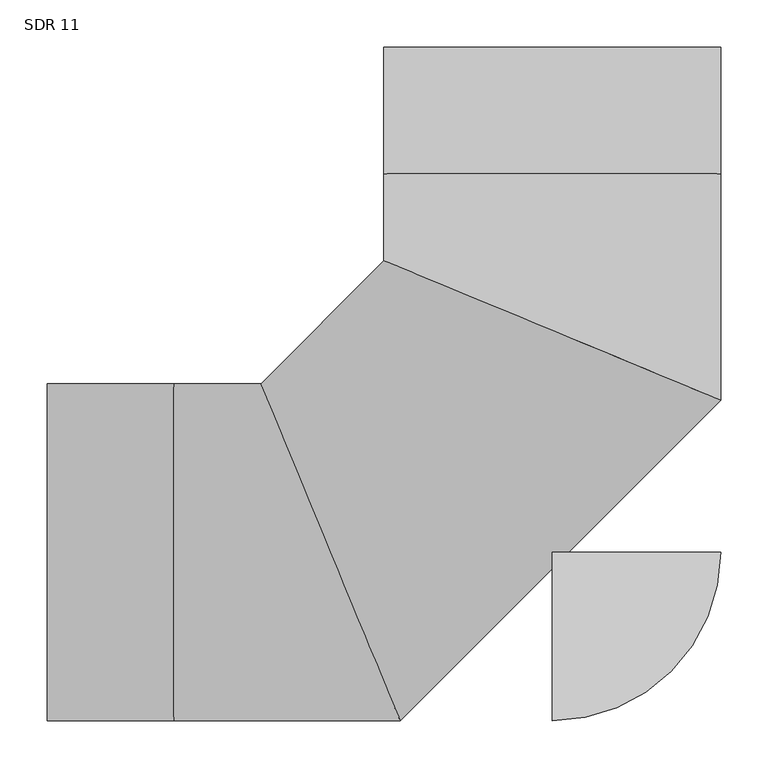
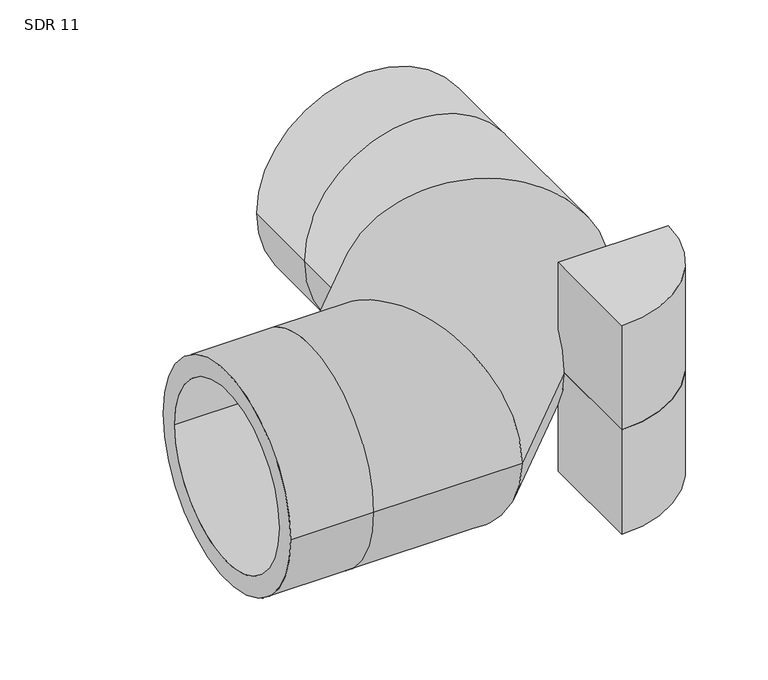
"""IFC4 building model written with IfcOpenShell, lengths in millimetres: pipe fitting geometry, Aquatherm - Elbow Blue BW Segmented : SDR 11."""

from ifc_helpers import new_model, si_unit, point, frame, origin, origin_with_axes, origin_2d, place, context, project, spatial, polyline, circle_curve, ellipse_curve, trimmed, segment, composite_curve, outline, extrude, source, transform, mapped, element, save
from ifc_brep_helpers import plane_surface, cylinder_surface, revolved_surface, advanced_brep


def sdr_11_2044b802(model_context):
    return source(origin(), model_context, "Body", "SolidModel", [
        extrude(outline(composite_curve([segment(polyline([(0.0, -177.8), (0.0, 0.0), (177.8, 0.0)]), True, "CONTINUOUS"), segment(trimmed(circle_curve(origin_2d(), 177.8), [point((177.8, 0.0))], [point((0.0, -177.8))], False, "CARTESIAN"), True, "CONTINUOUS")], self_intersect=False)), frame((0.0, 0.0, -177.8), z_axis=(0.0, 0.0, 1.0), x_axis=(1.0, 0.0, 0.0)), (0.0, 0.0, 1.0), 177.8),
        extrude(outline(composite_curve([segment(trimmed(circle_curve(origin_2d(), 177.8), [point((177.8, 0.0))], [point((0.0, -177.8))], False, "CARTESIAN"), True, "CONTINUOUS"), segment(polyline([(0.0, -177.8), (0.0, 0.0), (177.8, 0.0)]), True, "CONTINUOUS")], self_intersect=False)), origin_with_axes(), (0.0, 0.0, 1.0), 177.8),
        advanced_brep(
        [(-533.4, -177.8, 0.0), (-533.4, 177.8, 0.0), (-533.4, -145.4727273, 0.0), (-533.4, 145.4727273, 0.0), (177.8, 533.4, 0.0), (-177.8, 533.4, 0.0), (145.4727273, 533.4, 0.0), (-145.4727273, 533.4, 0.0), (-400.05, -177.8, 0.0), (-400.05, 177.8, 0.0), (-400.05, -145.4727273, 0.0), (-400.05, 145.4727273, 0.0), (-160.696693, -177.8, 0.0), (-307.9910358, 177.8, 0.0), (-174.0870878, -145.4727273, 0.0), (-294.600641, 145.4727273, 0.0), (177.8, 160.696693, 0.0), (-177.8, 307.9910358, 0.0), (145.4727273, 174.0870878, 0.0), (-145.4727273, 294.600641, 0.0), (-177.8, 400.05, 0.0), (177.8, 400.05, 0.0), (-145.4727273, 400.05, 0.0), (145.4727273, 400.05, 0.0)],
        [
            (0, 1, circle_curve(frame((-533.4, 0.0, 0.0), z_axis=(-1.0, 0.0, 0.0), x_axis=(0.0, 1.0, 0.0)), 177.8)),
            (1, 0, circle_curve(frame((-533.4, 0.0, 0.0), z_axis=(-1.0, 0.0, 0.0), x_axis=(0.0, 1.0, 0.0)), 177.8)),
            (2, 3, circle_curve(frame((-533.4, 0.0, 0.0), z_axis=(1.0, 0.0, 0.0), x_axis=(0.0, 1.0, 0.0)), 145.4727273)),
            (3, 2, circle_curve(frame((-533.4, 0.0, 0.0), z_axis=(1.0, 0.0, 0.0), x_axis=(0.0, 1.0, 0.0)), 145.4727273)),
            (4, 5, circle_curve(frame((0.0, 533.4, 0.0), z_axis=(0.0, 1.0, 0.0), x_axis=(-1.0, 0.0, 0.0)), 177.8)),
            (5, 4, circle_curve(frame((0.0, 533.4, 0.0), z_axis=(0.0, 1.0, 0.0), x_axis=(-1.0, 0.0, 0.0)), 177.8)),
            (6, 7, circle_curve(frame((0.0, 533.4, 0.0), z_axis=(0.0, -1.0, 0.0), x_axis=(-1.0, 0.0, 0.0)), 145.4727273)),
            (7, 6, circle_curve(frame((0.0, 533.4, 0.0), z_axis=(0.0, -1.0, 0.0), x_axis=(-1.0, 0.0, 0.0)), 145.4727273)),
            (0, 8),
            (8, 9, circle_curve(frame((-400.05, 0.0, 0.0), z_axis=(-1.0, 0.0, 0.0), x_axis=(0.0, 1.0, 0.0)), 177.8)),
            (9, 1),
            (9, 8, circle_curve(frame((-400.05, 0.0, 0.0), z_axis=(-1.0, 0.0, 0.0), x_axis=(0.0, 1.0, 0.0)), 177.8)),
            (2, 10),
            (10, 11, circle_curve(frame((-400.05, 0.0, 0.0), z_axis=(1.0, 0.0, 0.0), x_axis=(0.0, 1.0, 0.0)), 145.4727273)),
            (11, 3),
            (11, 10, circle_curve(frame((-400.05, 0.0, 0.0), z_axis=(1.0, 0.0, 0.0), x_axis=(0.0, 1.0, 0.0)), 145.4727273)),
            (8, 12),
            (12, 13, ellipse_curve(frame((-234.3438644, 0.0, 0.0), z_axis=(-0.9238795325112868, -0.38268343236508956, 0.0), x_axis=(-0.3826834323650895, 0.9238795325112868, 0.0)), 192.4493332, 177.8)),
            (13, 9),
            (13, 12, ellipse_curve(frame((-234.3438644, 0.0, 0.0), z_axis=(-0.9238795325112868, -0.38268343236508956, 0.0), x_axis=(-0.3826834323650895, 0.9238795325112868, 0.0)), 192.4493332, 177.8)),
            (10, 14),
            (14, 15, ellipse_curve(frame((-234.3438644, 0.0, 0.0), z_axis=(0.9238795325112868, 0.38268343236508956, 0.0), x_axis=(0.3826834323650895, -0.9238795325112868, 0.0)), 157.4585454, 145.4727273)),
            (15, 11),
            (15, 14, ellipse_curve(frame((-234.3438644, 0.0, 0.0), z_axis=(0.9238795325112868, 0.38268343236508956, 0.0), x_axis=(0.3826834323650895, -0.9238795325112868, 0.0)), 157.4585454, 145.4727273)),
            (12, 16),
            (16, 17, ellipse_curve(frame((0.0, 234.3438644, 0.0), z_axis=(-0.3826834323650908, -0.9238795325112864, 0.0), x_axis=(-0.9238795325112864, 0.3826834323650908, 0.0)), 192.4493332, 177.8)),
            (17, 13),
            (17, 16, ellipse_curve(frame((0.0, 234.3438644, 0.0), z_axis=(-0.3826834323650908, -0.9238795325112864, 0.0), x_axis=(-0.9238795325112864, 0.3826834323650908, 0.0)), 192.4493332, 177.8)),
            (14, 18),
            (18, 19, ellipse_curve(frame((0.0, 234.3438644, 0.0), z_axis=(0.3826834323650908, 0.9238795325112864, 0.0), x_axis=(0.9238795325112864, -0.3826834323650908, 0.0)), 157.4585454, 145.4727273)),
            (19, 15),
            (19, 18, ellipse_curve(frame((0.0, 234.3438644, 0.0), z_axis=(0.3826834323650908, 0.9238795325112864, 0.0), x_axis=(0.9238795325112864, -0.3826834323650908, 0.0)), 157.4585454, 145.4727273)),
            (20, 21, circle_curve(frame((0.0, 400.05, 0.0), z_axis=(0.0, 1.0, 0.0), x_axis=(-1.0, 0.0, 0.0)), 177.8)),
            (21, 4),
            (5, 20),
            (21, 20, circle_curve(frame((0.0, 400.05, 0.0), z_axis=(0.0, 1.0, 0.0), x_axis=(-1.0, 0.0, 0.0)), 177.8)),
            (22, 23, circle_curve(frame((0.0, 400.05, 0.0), z_axis=(0.0, -1.0, 0.0), x_axis=(-1.0, 0.0, 0.0)), 145.4727273)),
            (23, 6),
            (7, 22),
            (23, 22, circle_curve(frame((0.0, 400.05, 0.0), z_axis=(0.0, -1.0, 0.0), x_axis=(-1.0, 0.0, 0.0)), 145.4727273)),
            (16, 21),
            (20, 17),
            (18, 23),
            (22, 19),
        ],
        [
            plane_surface(frame((-533.4, 0.0, 0.0), z_axis=(-1.0, 0.0, 0.0), x_axis=(0.0, 0.0, 1.0))),
            plane_surface(frame((0.0, 533.4, 0.0), z_axis=(0.0, 1.0, 0.0), x_axis=(0.0, 0.0, 1.0))),
            cylinder_surface(frame((-533.4, 0.0, 0.0), z_axis=(-1.0, 0.0, 0.0), x_axis=(0.0, 1.0, 0.0)), 177.8),
            revolved_surface(polyline([(-400.05, 145.4727273, 0.0), (-533.4, 145.4727273, 0.0)]), (-533.4, 0.0, 0.0), (1.0, 0.0, 0.0)),
            cylinder_surface(frame((-400.05, 0.0, 0.0), z_axis=(-1.0, 0.0, 0.0), x_axis=(0.0, 1.0, 0.0)), 177.8),
            revolved_surface(polyline([(-174.08708779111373, 145.4727273, 0.0), (-400.05, 145.4727273, 0.0)]), (-400.05, 0.0, 0.0), (1.0, 0.0, 0.0)),
            cylinder_surface(frame((-234.3438644, 0.0, 0.0), z_axis=(-0.7071067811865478, -0.7071067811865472, 0.0), x_axis=(-0.7071067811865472, 0.7071067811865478, 0.0)), 177.8),
            revolved_surface(polyline([(-60.25677659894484, 379.81659170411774, 0.0), (-379.8165917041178, 60.256776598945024, 0.0)]), (-234.3438644, 0.0, 0.0), (0.7071067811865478, 0.7071067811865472, 0.0)),
            cylinder_surface(frame((0.0, 400.05, 0.0), z_axis=(0.0, -1.0, 0.0), x_axis=(-1.0, 0.0, 0.0)), 177.8),
            revolved_surface(polyline([(-145.4727273, 533.4, 0.0), (-145.4727273, 400.05, 0.0)]), (0.0, 400.05, 0.0), (0.0, 1.0, 0.0)),
            cylinder_surface(frame((0.0, 234.3438644, 0.0), z_axis=(0.0, -1.0, 0.0), x_axis=(-1.0, 0.0, 0.0)), 177.8),
            revolved_surface(polyline([(-145.4727273, 400.05, 0.0), (-145.4727273, 174.08708779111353, 0.0)]), (0.0, 234.3438644, 0.0), (0.0, 1.0, 0.0)),
        ],
        [
            (0, [[1, 2], [3, 4]]),
            (1, [[5, 6], [7, 8]]),
            (2, [[-1, 9, 10, 11]]),
            (2, [[-2, -11, 12, -9]]),
            (3, [[-3, 13, 14, 15]]),
            (3, [[-4, -15, 16, -13]]),
            (4, [[-10, 17, 18, 19]]),
            (4, [[-12, -19, 20, -17]]),
            (5, [[-14, 21, 22, 23]]),
            (5, [[-16, -23, 24, -21]]),
            (6, [[-18, 25, 26, 27]]),
            (6, [[-20, -27, 28, -25]]),
            (7, [[-22, 29, 30, 31]]),
            (7, [[-24, -31, 32, -29]]),
            (8, [[33, 34, -6, 35]]),
            (8, [[36, -35, -5, -34]]),
            (9, [[37, 38, -8, 39]]),
            (9, [[40, -39, -7, -38]]),
            (10, [[-26, 41, -33, 42]]),
            (10, [[-28, -42, -36, -41]]),
            (11, [[-30, 43, -37, 44]]),
            (11, [[-32, -44, -40, -43]]),
        ],
    ),
    ])


if __name__ == "__main__":
    model = new_model("IFC4")
    model_context = context("Model", 3, world=origin())
    ifc_project = project(units=[si_unit("LENGTHUNIT", "METRE", prefix="MILLI")], contexts=[model_context])
    site = spatial("IfcSite", under=ifc_project)
    building = spatial("IfcBuilding", under=site)
    placement = place(None, origin())
    sdr_11_shape = sdr_11_2044b802(model_context)
    element("IfcPipeFitting", 1, ObjectType="Aquatherm - Elbow Blue BW Segmented : SDR 11", at=placement, inside=building, context=model_context, shape_type="MappedRepresentation", body=[
        mapped(sdr_11_shape, transform((0.0, 0.0, 0.0), x_axis=(1.0, 0.0, 0.0), y_axis=(0.0, 1.0, 0.0), z_axis=(0.0, 0.0, 1.0))),
    ])
    save(model, "model.ifc")
